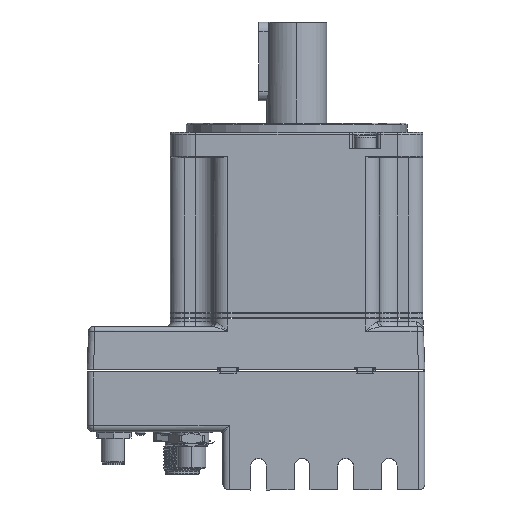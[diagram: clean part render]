
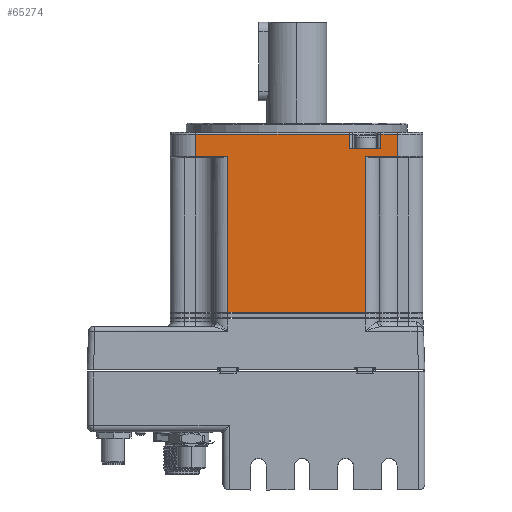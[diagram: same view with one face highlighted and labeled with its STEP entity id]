
A CAD part, left-side view. The second image highlights one B-rep face of the part: STEP entity #65274.
In plain terms, the highlighted planar face has unit normal (-1, 0, 0).
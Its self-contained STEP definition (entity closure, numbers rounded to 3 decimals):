
#2 = VERTEX_POINT ( 'NONE', #36640 ) ;
#772 = VECTOR ( 'NONE', #6401, 1000. ) ;
#1164 = EDGE_CURVE ( 'NONE', #82018, #82631, #43899, .T. ) ;
#1916 = CARTESIAN_POINT ( 'NONE',  ( -40., -8.541, 12.01 ) ) ;
#2050 = ORIENTED_EDGE ( 'NONE', *, *, #38619, .T. ) ;
#2540 = CARTESIAN_POINT ( 'NONE',  ( -40., 29.892, -39.99 ) ) ;
#3278 = DIRECTION ( 'NONE',  ( 0., 1., 0. ) ) ;
#4837 = EDGE_CURVE ( 'NONE', #49806, #25080, #14347, .T. ) ;
#5907 = CARTESIAN_POINT ( 'NONE',  ( -40., -13.608, -39.99 ) ) ;
#6074 = ORIENTED_EDGE ( 'NONE', *, *, #14798, .T. ) ;
#6401 = DIRECTION ( 'NONE',  ( 0., 1., 0. ) ) ;
#6597 = CARTESIAN_POINT ( 'NONE',  ( -40., -8.541, 5.51 ) ) ;
#6694 = ORIENTED_EDGE ( 'NONE', *, *, #79860, .T. ) ;
#7027 = CARTESIAN_POINT ( 'NONE',  ( -40., 29.892, 9.51 ) ) ;
#8664 = CARTESIAN_POINT ( 'NONE',  ( -40., -23.858, 5.51 ) ) ;
#9282 = LINE ( 'NONE', #71077, #62598 ) ;
#9373 = VERTEX_POINT ( 'NONE', #23707 ) ;
#11132 = ORIENTED_EDGE ( 'NONE', *, *, #46105, .T. ) ;
#11424 = CARTESIAN_POINT ( 'NONE',  ( -40., -18.541, 16.51 ) ) ;
#14347 = LINE ( 'NONE', #69813, #71724 ) ;
#14798 = EDGE_CURVE ( 'NONE', #41856, #81567, #75065, .T. ) ;
#16746 = LINE ( 'NONE', #44253, #73086 ) ;
#17285 = CARTESIAN_POINT ( 'NONE',  ( -40., -31.858, -39.99 ) ) ;
#17458 = DIRECTION ( 'NONE',  ( 1., 0., 0. ) ) ;
#17830 = ORIENTED_EDGE ( 'NONE', *, *, #72280, .T. ) ;
#20425 = LINE ( 'NONE', #68199, #772 ) ;
#23707 = CARTESIAN_POINT ( 'NONE',  ( -40., -23.858, 9.51 ) ) ;
#23948 = DIRECTION ( 'NONE',  ( 0., 0., -1. ) ) ;
#25080 = VERTEX_POINT ( 'NONE', #76089 ) ;
#27806 = EDGE_CURVE ( 'NONE', #81567, #75942, #52744, .T. ) ;
#28868 = ORIENTED_EDGE ( 'NONE', *, *, #47042, .T. ) ;
#35253 = ORIENTED_EDGE ( 'NONE', *, *, #45936, .T. ) ;
#35877 = EDGE_CURVE ( 'NONE', #9373, #2, #36158, .T. ) ;
#36158 = LINE ( 'NONE', #8664, #49598 ) ;
#36640 = CARTESIAN_POINT ( 'NONE',  ( -40., -23.858, 16.51 ) ) ;
#38619 = EDGE_CURVE ( 'NONE', #86756, #25080, #16746, .T. ) ;
#38830 = VERTEX_POINT ( 'NONE', #55019 ) ;
#39473 = ORIENTED_EDGE ( 'NONE', *, *, #1164, .F. ) ;
#40796 = DIRECTION ( 'NONE',  ( 0., 0., -1. ) ) ;
#41855 = DIRECTION ( 'NONE',  ( 0., -1., 0. ) ) ;
#41856 = VERTEX_POINT ( 'NONE', #55810 ) ;
#43899 = LINE ( 'NONE', #17285, #81588 ) ;
#44088 = FACE_OUTER_BOUND ( 'NONE', #87569, .T. ) ;
#44253 = CARTESIAN_POINT ( 'NONE',  ( -40., -18.541, 5.51 ) ) ;
#44520 = DIRECTION ( 'NONE',  ( 0., -1., 0. ) ) ;
#45936 = EDGE_CURVE ( 'NONE', #75942, #82631, #9282, .T. ) ;
#46105 = EDGE_CURVE ( 'NONE', #62497, #41856, #20425, .T. ) ;
#46270 = DIRECTION ( 'NONE',  ( 0., 1., 0. ) ) ;
#47042 = EDGE_CURVE ( 'NONE', #2, #86756, #80177, .T. ) ;
#48563 = DIRECTION ( 'NONE',  ( 0., 0., 1. ) ) ;
#49598 = VECTOR ( 'NONE', #79074, 1000. ) ;
#49806 = VERTEX_POINT ( 'NONE', #1916 ) ;
#51650 = VECTOR ( 'NONE', #40796, 1000. ) ;
#52744 = LINE ( 'NONE', #80290, #80804 ) ;
#55019 = CARTESIAN_POINT ( 'NONE',  ( -40., -13.608, 9.51 ) ) ;
#55076 = CARTESIAN_POINT ( 'NONE',  ( -40., 40.142, 9.51 ) ) ;
#55810 = CARTESIAN_POINT ( 'NONE',  ( -40., 40.142, 16.51 ) ) ;
#58047 = CARTESIAN_POINT ( 'NONE',  ( -40., -8.541, 16.51 ) ) ;
#59229 = VECTOR ( 'NONE', #68185, 1000. ) ;
#59803 = PLANE ( 'NONE',  #77124 ) ;
#62468 = VECTOR ( 'NONE', #48563, 1000. ) ;
#62497 = VERTEX_POINT ( 'NONE', #58047 ) ;
#62598 = VECTOR ( 'NONE', #66880, 1000. ) ;
#65105 = ORIENTED_EDGE ( 'NONE', *, *, #27806, .T. ) ;
#65274 = ADVANCED_FACE ( 'NONE', ( #44088 ), #59803, .F. ) ;
#65774 = DIRECTION ( 'NONE',  ( 0., -1., 0. ) ) ;
#66101 = CARTESIAN_POINT ( 'NONE',  ( -40., -18.541, 16.51 ) ) ;
#66880 = DIRECTION ( 'NONE',  ( 0., 0., -1. ) ) ;
#66954 = CARTESIAN_POINT ( 'NONE',  ( -40., 40.142, 5.51 ) ) ;
#67739 = CARTESIAN_POINT ( 'NONE',  ( -40., -31.858, 9.51 ) ) ;
#67932 = LINE ( 'NONE', #6597, #62468 ) ;
#68185 = DIRECTION ( 'NONE',  ( 0., -1., 0. ) ) ;
#68199 = CARTESIAN_POINT ( 'NONE',  ( -40., 40.142, 16.51 ) ) ;
#68596 = VECTOR ( 'NONE', #46270, 1000. ) ;
#68633 = LINE ( 'NONE', #67739, #59229 ) ;
#69813 = CARTESIAN_POINT ( 'NONE',  ( -40., -31.858, 12.01 ) ) ;
#71077 = CARTESIAN_POINT ( 'NONE',  ( -40., 29.892, -39.99 ) ) ;
#71724 = VECTOR ( 'NONE', #41855, 1000. ) ;
#72265 = ORIENTED_EDGE ( 'NONE', *, *, #35877, .T. ) ;
#72280 = EDGE_CURVE ( 'NONE', #38830, #9373, #68633, .T. ) ;
#72465 = VECTOR ( 'NONE', #81335, 1000. ) ;
#73086 = VECTOR ( 'NONE', #23948, 1000. ) ;
#75065 = LINE ( 'NONE', #66954, #51650 ) ;
#75942 = VERTEX_POINT ( 'NONE', #7027 ) ;
#76089 = CARTESIAN_POINT ( 'NONE',  ( -40., -18.541, 12.01 ) ) ;
#77124 = AXIS2_PLACEMENT_3D ( 'NONE', #80666, #17458, #44520 ) ;
#78319 = ORIENTED_EDGE ( 'NONE', *, *, #4837, .F. ) ;
#79074 = DIRECTION ( 'NONE',  ( 0., 0., 1. ) ) ;
#79860 = EDGE_CURVE ( 'NONE', #82018, #38830, #87260, .T. ) ;
#80177 = LINE ( 'NONE', #66101, #68596 ) ;
#80290 = CARTESIAN_POINT ( 'NONE',  ( -40., -31.858, 9.51 ) ) ;
#80347 = EDGE_CURVE ( 'NONE', #49806, #62497, #67932, .T. ) ;
#80666 = CARTESIAN_POINT ( 'NONE',  ( -40., -31.858, -39.99 ) ) ;
#80804 = VECTOR ( 'NONE', #65774, 1000. ) ;
#81335 = DIRECTION ( 'NONE',  ( 0., 0., 1. ) ) ;
#81567 = VERTEX_POINT ( 'NONE', #55076 ) ;
#81588 = VECTOR ( 'NONE', #3278, 1000. ) ;
#82018 = VERTEX_POINT ( 'NONE', #87427 ) ;
#82631 = VERTEX_POINT ( 'NONE', #2540 ) ;
#83001 = ORIENTED_EDGE ( 'NONE', *, *, #80347, .T. ) ;
#86756 = VERTEX_POINT ( 'NONE', #11424 ) ;
#87260 = LINE ( 'NONE', #5907, #72465 ) ;
#87427 = CARTESIAN_POINT ( 'NONE',  ( -40., -13.608, -39.99 ) ) ;
#87569 = EDGE_LOOP ( 'NONE', ( #6694, #17830, #72265, #28868, #2050, #78319, #83001, #11132, #6074, #65105, #35253, #39473 ) ) ;
